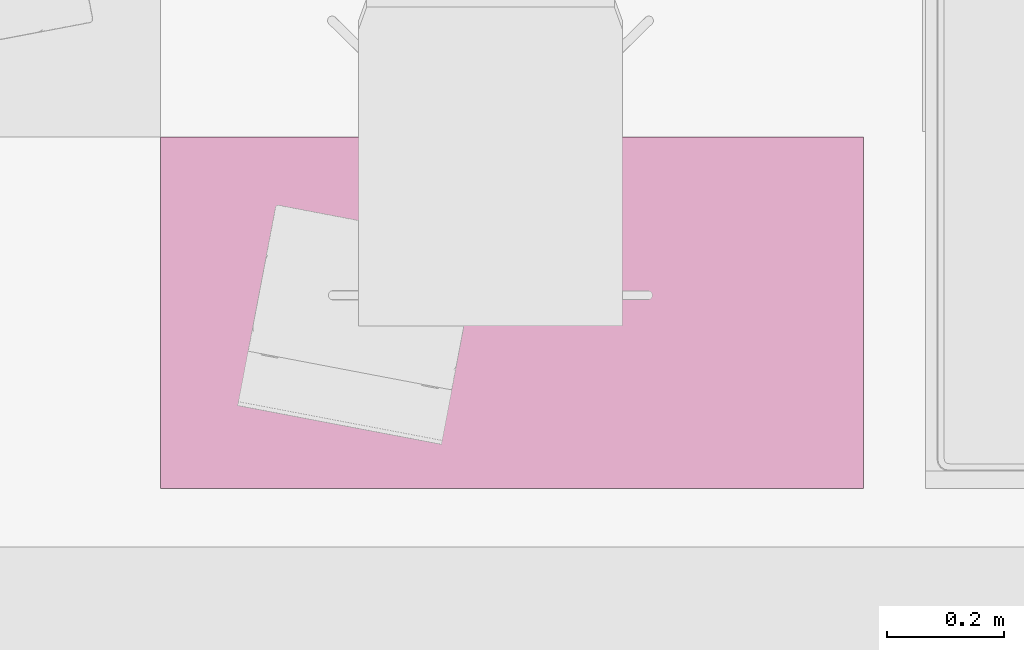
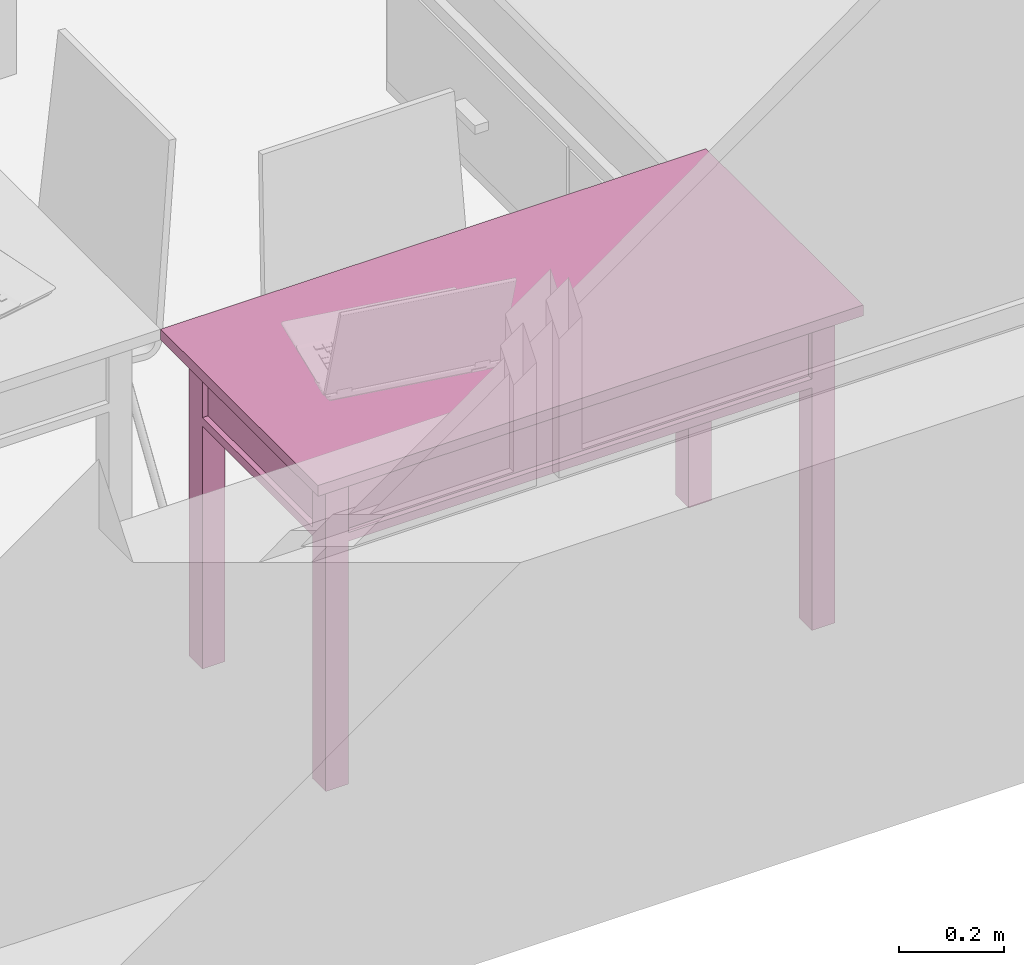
# One storey, part 55 of 165: 1 furnishing.
"""IFC2X3 building model written with IfcOpenShell, lengths in millimetres."""

from ifc_helpers import new_model, entity, si_unit, converted_unit, money_unit, direction, frame, origin_with_axes, place, context, subcontext, project, spatial, faceted_brep, source, transform, mapped, material, material_list, type_object, element, save


model = new_model("IFC2X3")

# Units and contexts
model_context = context("Model", 3, precision=1e-05, world=origin_with_axes(), true_north=direction((0.0, 1.0)))
body_context = subcontext(model_context, "Body", "Model", "MODEL_VIEW")
ifc_project = project(units=[si_unit("LENGTHUNIT", "METRE", prefix="MILLI"), si_unit("AREAUNIT", "SQUARE_METRE"), si_unit("VOLUMEUNIT", "CUBIC_METRE"), converted_unit("PLANEANGLEUNIT", "DEGREE", entity("IfcPlaneAngleMeasure", 0.0174532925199), si_unit("PLANEANGLEUNIT", "RADIAN"), dimensions=[0, 0, 0, 0, 0, 0, 0]), si_unit("SOLIDANGLEUNIT", "STERADIAN"), money_unit("USD"), converted_unit("TIMEUNIT", "Year", entity("IfcTimeMeasure", 31556926.0), si_unit("TIMEUNIT", "SECOND"), dimensions=[0, 0, 0, 0, 0, 0, 0]), si_unit("MASSUNIT", "GRAM"), si_unit("THERMODYNAMICTEMPERATUREUNIT", "DEGREE_CELSIUS"), si_unit("LUMINOUSINTENSITYUNIT", "LUMEN")], contexts=[model_context])

# Site, building, storey
site_placement = place(None, origin_with_axes())
site = spatial("IfcSite", under=ifc_project, at=site_placement, Name="Site", CompositionType="ELEMENT")
building_placement = place(site_placement, origin_with_axes())
building = spatial("IfcBuilding", under=site, at=building_placement, Name="Building", CompositionType="ELEMENT")
storey_placement = place(building_placement, frame((0.0, 0.0, 6300.0), z_axis=(0.0, 0.0, 1.0), x_axis=(1.0, 0.0, 0.0)))
storey = spatial("IfcBuildingStorey", under=building, at=storey_placement, Name="4KORRUS", CompositionType="ELEMENT", Elevation=6300.0)

# Furnishing
ifc_material = material(Name="Background")
ifc_material_list = material_list([ifc_material])
furnishing_element_type = type_object("IfcFurnishingElementType", Name="Rectangular Table 01 19")
shared_shape = source(origin_with_axes(), body_context, "Body", "Brep", [
    faceted_brep([(-90.0, 40.0, 0.0), (-90.0, 90.0, 0.0), (-40.0, 90.0, 0.0), (-40.0, 40.0, 0.0), (-90.0, 40.0, 725.0), (-90.0, 90.0, 725.0), (-40.0, 90.0, 725.0), (-40.0, 40.0, 725.0)], [[[0, 1, 2, 3]], [[0, 4, 5, 1]], [[1, 5, 6, 2]], [[2, 6, 7, 3]], [[3, 7, 4, 0]], [[7, 6, 5, 4]]]),
    faceted_brep([(-1160.0, 40.0, 0.0), (-1160.0, 90.0, 0.0), (-1110.0, 90.0, 0.0), (-1110.0, 40.0, 0.0), (-1160.0, 40.0, 725.0), (-1160.0, 90.0, 725.0), (-1110.0, 90.0, 725.0), (-1110.0, 40.0, 725.0)], [[[0, 1, 2, 3]], [[0, 4, 5, 1]], [[1, 5, 6, 2]], [[2, 6, 7, 3]], [[3, 7, 4, 0]], [[7, 6, 5, 4]]]),
    faceted_brep([(-90.0, 510.0, 0.0), (-90.0, 560.0, 0.0), (-40.0, 560.0, 0.0), (-40.0, 510.0, 0.0), (-90.0, 510.0, 725.0), (-90.0, 560.0, 725.0), (-40.0, 560.0, 725.0), (-40.0, 510.0, 725.0)], [[[0, 1, 2, 3]], [[0, 4, 5, 1]], [[1, 5, 6, 2]], [[2, 6, 7, 3]], [[3, 7, 4, 0]], [[7, 6, 5, 4]]]),
    faceted_brep([(-1160.0, 510.0, 0.0), (-1160.0, 560.0, 0.0), (-1110.0, 560.0, 0.0), (-1110.0, 510.0, 0.0), (-1160.0, 510.0, 725.0), (-1160.0, 560.0, 725.0), (-1110.0, 560.0, 725.0), (-1110.0, 510.0, 725.0)], [[[0, 1, 2, 3]], [[0, 4, 5, 1]], [[1, 5, 6, 2]], [[2, 6, 7, 3]], [[3, 7, 4, 0]], [[7, 6, 5, 4]]]),
    faceted_brep([(-1160.0, 40.0, 565.0), (-1160.0, 560.0, 565.0), (-40.0, 560.0, 565.0), (-40.0, 40.0, 565.0), (-1160.0, 40.0, 585.0), (-1160.0, 560.0, 585.0), (-40.0, 560.0, 585.0), (-40.0, 40.0, 585.0)], [[[0, 1, 2, 3]], [[0, 4, 5, 1]], [[1, 5, 6, 2]], [[2, 6, 7, 3]], [[3, 7, 4, 0]], [[7, 6, 5, 4]]]),
    faceted_brep([(-1110.0, 52.5, 585.0), (-1110.0, 77.5, 585.0), (-90.0, 77.5, 585.0), (-90.0, 52.5, 585.0), (-1110.0, 52.5, 745.0), (-1110.0, 77.5, 745.0), (-90.0, 77.5, 745.0), (-90.0, 52.5, 745.0)], [[[0, 1, 2, 3]], [[0, 4, 5, 1]], [[1, 5, 6, 2]], [[2, 6, 7, 3]], [[3, 7, 4, 0]], [[7, 6, 5, 4]]]),
    faceted_brep([(-77.5, 90.0, 585.0), (-77.5, 510.0, 585.0), (-52.5, 510.0, 585.0), (-52.5, 90.0, 585.0), (-77.5, 90.0, 745.0), (-77.5, 510.0, 745.0), (-52.5, 510.0, 745.0), (-52.5, 90.0, 745.0)], [[[0, 1, 2, 3]], [[0, 4, 5, 1]], [[1, 5, 6, 2]], [[2, 6, 7, 3]], [[3, 7, 4, 0]], [[7, 6, 5, 4]]]),
    faceted_brep([(-90.0, 547.5, 585.0), (-90.0, 522.5, 585.0), (-1110.0, 522.5, 585.0), (-1110.0, 547.5, 585.0), (-90.0, 547.5, 745.0), (-90.0, 522.5, 745.0), (-1110.0, 522.5, 745.0), (-1110.0, 547.5, 745.0)], [[[0, 1, 2, 3]], [[0, 4, 5, 1]], [[1, 5, 6, 2]], [[2, 6, 7, 3]], [[3, 7, 4, 0]], [[7, 6, 5, 4]]]),
    faceted_brep([(-1122.5, 510.0, 585.0), (-1122.5, 90.0, 585.0), (-1147.5, 90.0, 585.0), (-1147.5, 510.0, 585.0), (-1122.5, 510.0, 745.0), (-1122.5, 90.0, 745.0), (-1147.5, 90.0, 745.0), (-1147.5, 510.0, 745.0)], [[[0, 1, 2, 3]], [[0, 4, 5, 1]], [[1, 5, 6, 2]], [[2, 6, 7, 3]], [[3, 7, 4, 0]], [[7, 6, 5, 4]]]),
    faceted_brep([(-597.5, 40.0, 585.0), (-597.5, 60.0, 585.0), (-95.0, 60.0, 585.0), (-95.0, 40.0, 585.0), (-597.5, 40.0, 745.0), (-597.5, 60.0, 745.0), (-95.0, 60.0, 745.0), (-95.0, 40.0, 745.0)], [[[0, 1, 2, 3]], [[0, 4, 5, 1]], [[1, 5, 6, 2]], [[2, 6, 7, 3]], [[3, 7, 4, 0]], [[7, 6, 5, 4]]]),
    faceted_brep([(-1105.0, 40.0, 585.0), (-1105.0, 60.0, 585.0), (-602.5, 60.0, 585.0), (-602.5, 40.0, 585.0), (-1105.0, 40.0, 745.0), (-1105.0, 60.0, 745.0), (-602.5, 60.0, 745.0), (-602.5, 40.0, 745.0)], [[[0, 1, 2, 3]], [[0, 4, 5, 1]], [[1, 5, 6, 2]], [[2, 6, 7, 3]], [[3, 7, 4, 0]], [[7, 6, 5, 4]]]),
    faceted_brep([(-354.91, 40.0, 660.0), (-356.25, 40.0, 665.0), (-354.91, 40.0, 670.0), (-351.25, 40.0, 673.66), (-346.25, 40.0, 675.0), (-341.25, 40.0, 673.66), (-337.59, 40.0, 670.0), (-336.25, 40.0, 665.0), (-337.59, 40.0, 660.0), (-341.25, 40.0, 656.34), (-346.25, 40.0, 655.0), (-351.25, 40.0, 656.34), (-354.91, 25.0, 660.0), (-356.25, 25.0, 665.0), (-354.91, 25.0, 670.0), (-351.25, 25.0, 673.66), (-346.25, 25.0, 675.0), (-341.25, 25.0, 673.66), (-337.59, 25.0, 670.0), (-336.25, 25.0, 665.0), (-337.59, 25.0, 660.0), (-341.25, 25.0, 656.34), (-346.25, 25.0, 655.0), (-351.25, 25.0, 656.34)], [[[0, 1, 2, 3, 4, 5, 6, 7, 8, 9, 10, 11]], [[0, 12, 13, 1]], [[1, 13, 14, 2]], [[2, 14, 15, 3]], [[3, 15, 16, 4]], [[4, 16, 17, 5]], [[5, 17, 18, 6]], [[6, 18, 19, 7]], [[7, 19, 20, 8]], [[8, 20, 21, 9]], [[9, 21, 22, 10]], [[10, 22, 23, 11]], [[11, 23, 12, 0]], [[12, 23, 22, 21, 20, 19, 18, 17, 16, 15, 14, 13]]]),
    faceted_brep([(-356.25, 12.01, 665.0), (-354.91, 12.01, 660.0), (-346.25, 10.0, 665.0), (-363.571, 17.5, 665.0), (-361.25, 17.5, 656.34), (-351.25, 12.01, 656.34), (-354.91, 12.01, 670.0), (-366.25, 25.0, 665.0), (-363.571, 25.0, 655.0), (-354.91, 17.5, 650.0), (-361.25, 17.5, 673.66), (-346.25, 12.01, 655.0), (-351.25, 12.01, 673.66), (-363.571, 25.0, 675.0), (-356.25, 25.0, 682.321), (-346.25, 25.0, 685.0), (-336.25, 25.0, 682.321), (-328.929, 25.0, 675.0), (-326.25, 25.0, 665.0), (-328.929, 25.0, 655.0), (-336.25, 25.0, 647.679), (-346.25, 25.0, 645.0), (-356.25, 25.0, 647.679), (-346.25, 17.5, 647.679), (-354.91, 17.5, 680.0), (-341.25, 12.01, 656.34), (-346.25, 12.01, 675.0), (-346.25, 17.5, 682.321), (-337.59, 17.5, 680.0), (-331.25, 17.5, 673.66), (-328.929, 17.5, 665.0), (-331.25, 17.5, 656.34), (-337.59, 17.5, 650.0), (-337.59, 12.01, 660.0), (-341.25, 12.01, 673.66), (-337.59, 12.01, 670.0), (-336.25, 12.01, 665.0)], [[[0, 1, 2]], [[3, 4, 1, 0]], [[1, 5, 2]], [[6, 0, 2]], [[7, 8, 4, 3]], [[4, 9, 5, 1]], [[10, 3, 0, 6]], [[5, 11, 2]], [[12, 6, 2]], [[8, 7, 13, 14, 15, 16, 17, 18, 19, 20, 21, 22]], [[8, 22, 9, 4]], [[13, 7, 3, 10]], [[9, 23, 11, 5]], [[24, 10, 6, 12]], [[11, 25, 2]], [[26, 12, 2]], [[14, 13, 10, 24]], [[15, 14, 24, 27]], [[16, 15, 27, 28]], [[17, 16, 28, 29]], [[18, 17, 29, 30]], [[19, 18, 30, 31]], [[20, 19, 31, 32]], [[21, 20, 32, 23]], [[22, 21, 23, 9]], [[23, 32, 25, 11]], [[27, 24, 12, 26]], [[25, 33, 2]], [[34, 26, 2]], [[28, 27, 26, 34]], [[29, 28, 34, 35]], [[30, 29, 35, 36]], [[31, 30, 36, 33]], [[32, 31, 33, 25]], [[33, 36, 2]], [[35, 34, 2]], [[36, 35, 2]]]),
    faceted_brep([(-862.41, 40.0, 660.0), (-863.75, 40.0, 665.0), (-862.41, 40.0, 670.0), (-858.75, 40.0, 673.66), (-853.75, 40.0, 675.0), (-848.75, 40.0, 673.66), (-845.09, 40.0, 670.0), (-843.75, 40.0, 665.0), (-845.09, 40.0, 660.0), (-848.75, 40.0, 656.34), (-853.75, 40.0, 655.0), (-858.75, 40.0, 656.34), (-862.41, 25.0, 660.0), (-863.75, 25.0, 665.0), (-862.41, 25.0, 670.0), (-858.75, 25.0, 673.66), (-853.75, 25.0, 675.0), (-848.75, 25.0, 673.66), (-845.09, 25.0, 670.0), (-843.75, 25.0, 665.0), (-845.09, 25.0, 660.0), (-848.75, 25.0, 656.34), (-853.75, 25.0, 655.0), (-858.75, 25.0, 656.34)], [[[0, 1, 2, 3, 4, 5, 6, 7, 8, 9, 10, 11]], [[0, 12, 13, 1]], [[1, 13, 14, 2]], [[2, 14, 15, 3]], [[3, 15, 16, 4]], [[4, 16, 17, 5]], [[5, 17, 18, 6]], [[6, 18, 19, 7]], [[7, 19, 20, 8]], [[8, 20, 21, 9]], [[9, 21, 22, 10]], [[10, 22, 23, 11]], [[11, 23, 12, 0]], [[12, 23, 22, 21, 20, 19, 18, 17, 16, 15, 14, 13]]]),
    faceted_brep([(-863.75, 12.01, 665.0), (-862.41, 12.01, 660.0), (-853.75, 10.0, 665.0), (-871.071, 17.5, 665.0), (-868.75, 17.5, 656.34), (-858.75, 12.01, 656.34), (-862.41, 12.01, 670.0), (-873.75, 25.0, 665.0), (-871.071, 25.0, 655.0), (-862.41, 17.5, 650.0), (-868.75, 17.5, 673.66), (-853.75, 12.01, 655.0), (-858.75, 12.01, 673.66), (-871.071, 25.0, 675.0), (-863.75, 25.0, 682.321), (-853.75, 25.0, 685.0), (-843.75, 25.0, 682.321), (-836.429, 25.0, 675.0), (-833.75, 25.0, 665.0), (-836.429, 25.0, 655.0), (-843.75, 25.0, 647.679), (-853.75, 25.0, 645.0), (-863.75, 25.0, 647.679), (-853.75, 17.5, 647.679), (-862.41, 17.5, 680.0), (-848.75, 12.01, 656.34), (-853.75, 12.01, 675.0), (-853.75, 17.5, 682.321), (-845.09, 17.5, 680.0), (-838.75, 17.5, 673.66), (-836.429, 17.5, 665.0), (-838.75, 17.5, 656.34), (-845.09, 17.5, 650.0), (-845.09, 12.01, 660.0), (-848.75, 12.01, 673.66), (-845.09, 12.01, 670.0), (-843.75, 12.01, 665.0)], [[[0, 1, 2]], [[3, 4, 1, 0]], [[1, 5, 2]], [[6, 0, 2]], [[7, 8, 4, 3]], [[4, 9, 5, 1]], [[10, 3, 0, 6]], [[5, 11, 2]], [[12, 6, 2]], [[8, 7, 13, 14, 15, 16, 17, 18, 19, 20, 21, 22]], [[8, 22, 9, 4]], [[13, 7, 3, 10]], [[9, 23, 11, 5]], [[24, 10, 6, 12]], [[11, 25, 2]], [[26, 12, 2]], [[14, 13, 10, 24]], [[15, 14, 24, 27]], [[16, 15, 27, 28]], [[17, 16, 28, 29]], [[18, 17, 29, 30]], [[19, 18, 30, 31]], [[20, 19, 31, 32]], [[21, 20, 32, 23]], [[22, 21, 23, 9]], [[23, 32, 25, 11]], [[27, 24, 12, 26]], [[25, 33, 2]], [[34, 26, 2]], [[28, 27, 26, 34]], [[29, 28, 34, 35]], [[30, 29, 35, 36]], [[31, 30, 36, 33]], [[32, 31, 33, 25]], [[33, 36, 2]], [[35, 34, 2]], [[36, 35, 2]]]),
    faceted_brep([(-1200.0, 0.0, 725.0), (-1200.0, 600.0, 725.0), (0.0, 600.0, 725.0), (0.0, 0.0, 725.0), (-1200.0, 0.0, 750.0), (-1200.0, 600.0, 750.0), (0.0, 600.0, 750.0), (0.0, 0.0, 750.0)], [[[0, 1, 2, 3]], [[0, 4, 5, 1]], [[1, 5, 6, 2]], [[2, 6, 7, 3]], [[3, 7, 4, 0]], [[7, 6, 5, 4]]]),
])
furnishing_placement = place(storey_placement, frame((-50495.8669764, -18939.2398994, 0.0), z_axis=(0.0, 0.0, 1.0), x_axis=(-1.0, 0.0, 0.0)))
element("IfcFurnishingElement", 1, at=furnishing_placement, inside=storey, type_object=furnishing_element_type, material=ifc_material_list, Name="FU - 011", context=body_context, shape_type="MappedRepresentation", body=[
    mapped(shared_shape, transform((0.0, 0.0, 0.0))),
])

save(model, "model.ifc")
